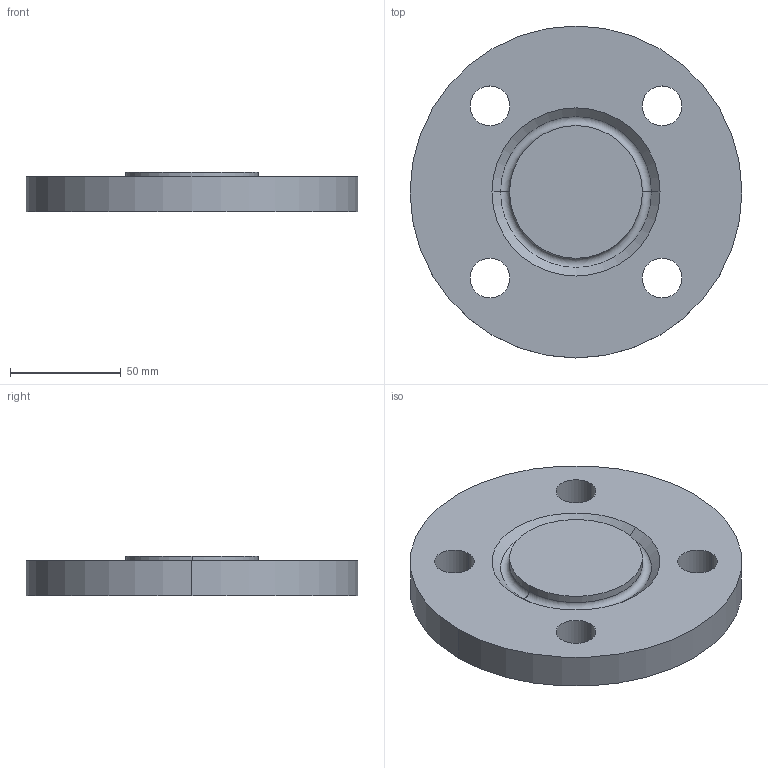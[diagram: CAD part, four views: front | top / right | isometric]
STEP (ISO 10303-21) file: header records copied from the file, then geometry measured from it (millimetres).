
FILE_DESCRIPTION (( 'STEP AP214' ), '1' );
FILE_NAME ('PN40 DN40 Type 05 - Type H Face.STEP', '2018-12-30T02:25:24', ( '' ), ( '' ), 'SwSTEP 2.0', 'SolidWorks 2019', '' );
FILE_SCHEMA (( 'AUTOMOTIVE_DESIGN' ));
Length unit declared in the file: millimetre
Products named in the file (1): PN40 DN40 Type 05 - Type H Face
Bounding box: 150 x 150 x 18 mm (x, y, z)
Volume: 267645 mm3; surface area: 45718.2 mm2
Topology: 1 solids, 1 shells, 19 faces, 44 edges, 28 vertices
Faces by surface type: cylinder 12, plane 3, torus 2, cone 2
Entity records: 606 total; most frequent: DIRECTION 114, CARTESIAN_POINT 92, ORIENTED_EDGE 88, AXIS2_PLACEMENT_3D 50, EDGE_CURVE 44, CIRCLE 30, VERTEX_POINT 28, EDGE_LOOP 28
